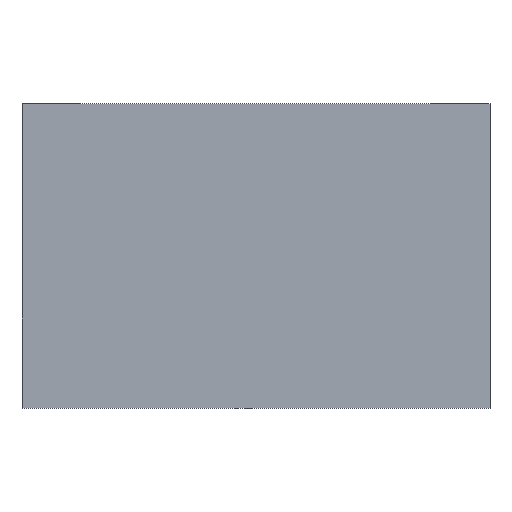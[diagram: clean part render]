
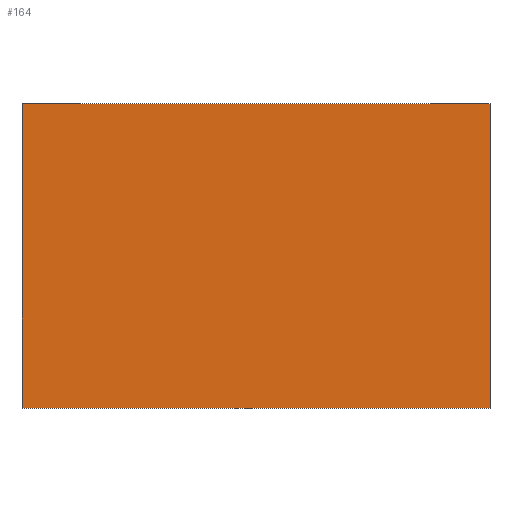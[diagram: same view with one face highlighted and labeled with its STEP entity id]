
A CAD part, top view. The second image highlights one B-rep face of the part: STEP entity #164.
In plain terms, the highlighted planar face has unit normal (0, 0, 1).
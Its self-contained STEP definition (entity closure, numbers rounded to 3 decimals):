
#6 = VERTEX_POINT ( 'NONE', #342 ) ;
#16 = AXIS2_PLACEMENT_3D ( 'NONE', #327, #527, #76 ) ;
#24 = CARTESIAN_POINT ( 'NONE',  ( 10., 11.1, 0. ) ) ;
#27 = DIRECTION ( 'NONE',  ( -1., 0., 0. ) ) ;
#53 = CARTESIAN_POINT ( 'NONE',  ( -10., 11.1, 0. ) ) ;
#55 = CARTESIAN_POINT ( 'NONE',  ( 10., -1.9, 0. ) ) ;
#64 = DIRECTION ( 'NONE',  ( -1., 0., 0. ) ) ;
#66 = VECTOR ( 'NONE', #355, 1000. ) ;
#76 = DIRECTION ( 'NONE',  ( 0., 1., 0. ) ) ;
#79 = VECTOR ( 'NONE', #64, 1000. ) ;
#105 = CARTESIAN_POINT ( 'NONE',  ( 10., 11.1, 0. ) ) ;
#114 = LINE ( 'NONE', #105, #66 ) ;
#135 = VERTEX_POINT ( 'NONE', #192 ) ;
#164 = ADVANCED_FACE ( 'NONE', ( #425 ), #179, .F. ) ;
#179 = PLANE ( 'NONE',  #16 ) ;
#192 = CARTESIAN_POINT ( 'NONE',  ( 10., 11.1, 0. ) ) ;
#202 = VERTEX_POINT ( 'NONE', #248 ) ;
#212 = LINE ( 'NONE', #55, #79 ) ;
#237 = ORIENTED_EDGE ( 'NONE', *, *, #462, .T. ) ;
#248 = CARTESIAN_POINT ( 'NONE',  ( 10., -1.9, 0. ) ) ;
#264 = ORIENTED_EDGE ( 'NONE', *, *, #629, .F. ) ;
#273 = ORIENTED_EDGE ( 'NONE', *, *, #316, .F. ) ;
#302 = VERTEX_POINT ( 'NONE', #53 ) ;
#314 = DIRECTION ( 'NONE',  ( 0., -1., 0. ) ) ;
#316 = EDGE_CURVE ( 'NONE', #135, #202, #114, .T. ) ;
#327 = CARTESIAN_POINT ( 'NONE',  ( 10., 11.1, 0. ) ) ;
#342 = CARTESIAN_POINT ( 'NONE',  ( -10., -1.9, 0. ) ) ;
#355 = DIRECTION ( 'NONE',  ( 0., -1., 0. ) ) ;
#375 = LINE ( 'NONE', #24, #517 ) ;
#386 = VECTOR ( 'NONE', #314, 1000. ) ;
#411 = EDGE_LOOP ( 'NONE', ( #237, #658, #264, #273 ) ) ;
#425 = FACE_OUTER_BOUND ( 'NONE', #411, .T. ) ;
#462 = EDGE_CURVE ( 'NONE', #135, #302, #375, .T. ) ;
#503 = LINE ( 'NONE', #509, #386 ) ;
#509 = CARTESIAN_POINT ( 'NONE',  ( -10., 11.1, 0. ) ) ;
#517 = VECTOR ( 'NONE', #27, 1000. ) ;
#527 = DIRECTION ( 'NONE',  ( 0., 0., -1. ) ) ;
#627 = EDGE_CURVE ( 'NONE', #302, #6, #503, .T. ) ;
#629 = EDGE_CURVE ( 'NONE', #202, #6, #212, .T. ) ;
#658 = ORIENTED_EDGE ( 'NONE', *, *, #627, .T. ) ;
